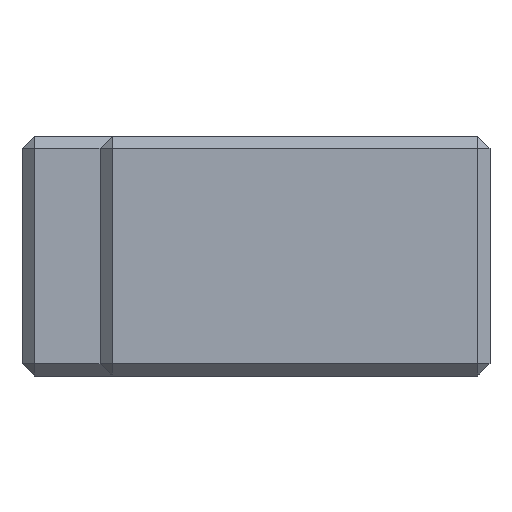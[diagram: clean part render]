
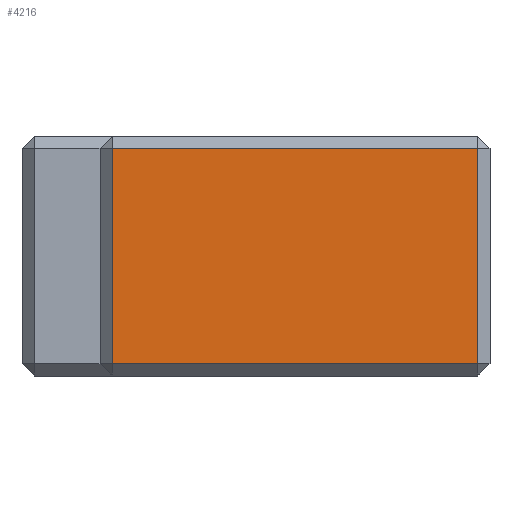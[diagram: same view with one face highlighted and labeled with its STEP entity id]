
A CAD part, left-side view. The second image highlights one B-rep face of the part: STEP entity #4216.
In plain terms, the highlighted planar face has unit normal (-1, 0, 0).
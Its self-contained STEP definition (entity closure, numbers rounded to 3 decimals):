
#35 = VERTEX_POINT ( 'NONE', #3107 ) ;
#73 = VECTOR ( 'NONE', #4500, 1000. ) ;
#242 = CARTESIAN_POINT ( 'NONE',  ( -30., 32.5, -9. ) ) ;
#331 = DIRECTION ( 'NONE',  ( 0., 1., 0. ) ) ;
#429 = ORIENTED_EDGE ( 'NONE', *, *, #4223, .T. ) ;
#433 = LINE ( 'NONE', #3070, #73 ) ;
#438 = CARTESIAN_POINT ( 'NONE',  ( -30., 32.5, 10. ) ) ;
#544 = VERTEX_POINT ( 'NONE', #2023 ) ;
#677 = ORIENTED_EDGE ( 'NONE', *, *, #1644, .T. ) ;
#776 = VECTOR ( 'NONE', #2661, 1000. ) ;
#845 = DIRECTION ( 'NONE',  ( 0., 0., 1. ) ) ;
#889 = EDGE_CURVE ( 'NONE', #3783, #35, #3032, .T. ) ;
#1137 = AXIS2_PLACEMENT_3D ( 'NONE', #438, #1192, #2844 ) ;
#1192 = DIRECTION ( 'NONE',  ( 1., 0., 0. ) ) ;
#1316 = EDGE_CURVE ( 'NONE', #35, #2238, #2171, .T. ) ;
#1365 = EDGE_LOOP ( 'NONE', ( #4140, #1371, #677, #429 ) ) ;
#1371 = ORIENTED_EDGE ( 'NONE', *, *, #1316, .T. ) ;
#1644 = EDGE_CURVE ( 'NONE', #2238, #544, #2694, .T. ) ;
#1771 = CARTESIAN_POINT ( 'NONE',  ( -30., 1., 9. ) ) ;
#1914 = CARTESIAN_POINT ( 'NONE',  ( -30., 1., 10. ) ) ;
#2023 = CARTESIAN_POINT ( 'NONE',  ( -30., 31.5, 9. ) ) ;
#2054 = FACE_OUTER_BOUND ( 'NONE', #1365, .T. ) ;
#2171 = LINE ( 'NONE', #1914, #3351 ) ;
#2238 = VERTEX_POINT ( 'NONE', #1771 ) ;
#2465 = PLANE ( 'NONE',  #1137 ) ;
#2560 = CARTESIAN_POINT ( 'NONE',  ( -30., 31.5, -9. ) ) ;
#2661 = DIRECTION ( 'NONE',  ( 0., -1., 0. ) ) ;
#2694 = LINE ( 'NONE', #4138, #3628 ) ;
#2844 = DIRECTION ( 'NONE',  ( 0., 1., 0. ) ) ;
#3032 = LINE ( 'NONE', #242, #776 ) ;
#3070 = CARTESIAN_POINT ( 'NONE',  ( -30., 31.5, 10. ) ) ;
#3107 = CARTESIAN_POINT ( 'NONE',  ( -30., 1., -9. ) ) ;
#3351 = VECTOR ( 'NONE', #845, 1000. ) ;
#3628 = VECTOR ( 'NONE', #331, 1000. ) ;
#3783 = VERTEX_POINT ( 'NONE', #2560 ) ;
#4138 = CARTESIAN_POINT ( 'NONE',  ( -30., 32.5, 9. ) ) ;
#4140 = ORIENTED_EDGE ( 'NONE', *, *, #889, .T. ) ;
#4216 = ADVANCED_FACE ( 'NONE', ( #2054 ), #2465, .F. ) ;
#4223 = EDGE_CURVE ( 'NONE', #544, #3783, #433, .T. ) ;
#4500 = DIRECTION ( 'NONE',  ( 0., 0., -1. ) ) ;
